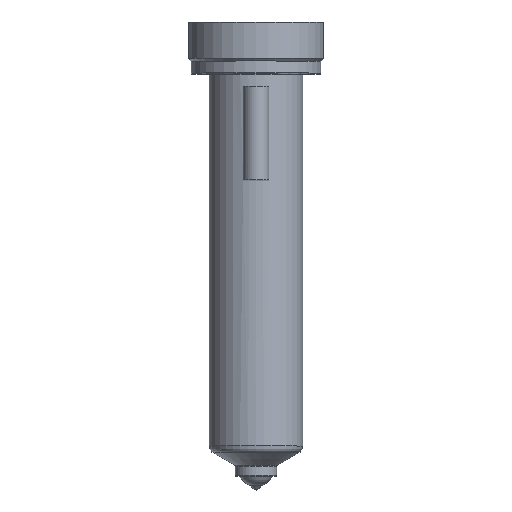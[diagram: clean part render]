
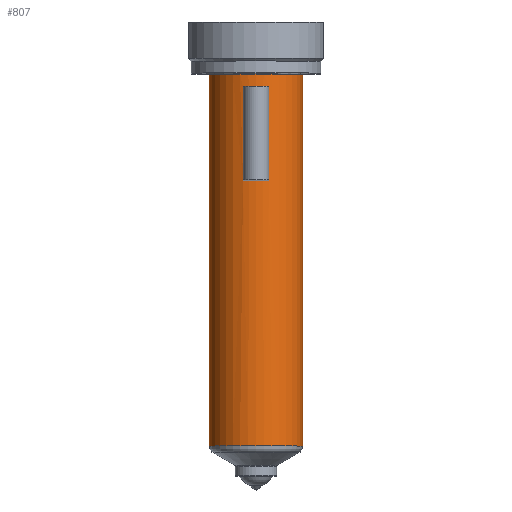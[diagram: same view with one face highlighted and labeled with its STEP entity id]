
A CAD part, top view. The second image highlights one B-rep face of the part: STEP entity #807.
In plain terms, the highlighted cylindrical face has radius 9 mm (diameter 18 mm), a partial arc.
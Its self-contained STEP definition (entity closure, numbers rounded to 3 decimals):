
#193=DIRECTION('',(0.,-1.,0.));
#194=VECTOR('',#193,71.544);
#195=CARTESIAN_POINT('',(9.,0.,0.));
#196=LINE('',#195,#194);
#197=CARTESIAN_POINT('',(0.,-71.544,0.));
#198=DIRECTION('',(0.,1.,0.));
#199=DIRECTION('',(-1.,0.,0.));
#200=AXIS2_PLACEMENT_3D('',#197,#198,#199);
#202=DIRECTION('',(0.,1.,0.));
#203=VECTOR('',#202,71.544);
#204=CARTESIAN_POINT('',(-9.,-71.544,0.));
#205=LINE('',#204,#203);
#206=CARTESIAN_POINT('',(0.,0.,0.));
#207=DIRECTION('',(0.,1.,0.));
#208=DIRECTION('',(-1.,0.,0.));
#209=AXIS2_PLACEMENT_3D('',#206,#207,#208);
#211=DIRECTION('',(0.,-1.,0.));
#212=VECTOR('',#211,18.);
#213=CARTESIAN_POINT('',(-2.5,-2.5,8.646));
#214=LINE('',#213,#212);
#215=DIRECTION('',(0.,1.,0.));
#216=VECTOR('',#215,18.);
#217=CARTESIAN_POINT('',(2.5,-20.5,8.646));
#218=LINE('',#217,#216);
#385=CARTESIAN_POINT('',(0.,-2.5,0.));
#386=DIRECTION('',(0.,-1.,0.));
#387=DIRECTION('',(0.278,0.,0.961));
#388=AXIS2_PLACEMENT_3D('',#385,#386,#387);
#403=CARTESIAN_POINT('',(0.,-20.5,0.));
#404=DIRECTION('',(0.,1.,0.));
#405=DIRECTION('',(-0.278,0.,0.961));
#406=AXIS2_PLACEMENT_3D('',#403,#404,#405);
#482=CARTESIAN_POINT('',(-9.,0.,0.));
#483=CARTESIAN_POINT('',(9.,0.,0.));
#484=VERTEX_POINT('',#482);
#485=VERTEX_POINT('',#483);
#494=CARTESIAN_POINT('',(-2.5,-2.5,8.646));
#495=VERTEX_POINT('',#494);
#496=CARTESIAN_POINT('',(2.5,-2.5,8.646));
#497=VERTEX_POINT('',#496);
#534=CARTESIAN_POINT('',(9.,-71.544,0.));
#535=VERTEX_POINT('',#534);
#544=CARTESIAN_POINT('',(-9.,-71.544,0.));
#545=VERTEX_POINT('',#544);
#566=CARTESIAN_POINT('',(-2.5,-20.5,8.646));
#567=CARTESIAN_POINT('',(2.5,-20.5,8.646));
#568=VERTEX_POINT('',#566);
#569=VERTEX_POINT('',#567);
#785=CARTESIAN_POINT('',(0.,11.15,0.));
#786=DIRECTION('',(0.,-1.,0.));
#787=DIRECTION('',(-1.,0.,0.));
#788=AXIS2_PLACEMENT_3D('',#785,#786,#787);
#789=CYLINDRICAL_SURFACE('',#788,9.);
#790=ORIENTED_EDGE('',*,*,#779,.T.);
#792=ORIENTED_EDGE('',*,*,#791,.F.);
#793=ORIENTED_EDGE('',*,*,#775,.T.);
#794=ORIENTED_EDGE('',*,*,#765,.T.);
#795=EDGE_LOOP('',(#790,#792,#793,#794));
#796=FACE_OUTER_BOUND('',#795,.F.);
#798=ORIENTED_EDGE('',*,*,#797,.T.);
#800=ORIENTED_EDGE('',*,*,#799,.T.);
#802=ORIENTED_EDGE('',*,*,#801,.T.);
#804=ORIENTED_EDGE('',*,*,#803,.T.);
#805=EDGE_LOOP('',(#798,#800,#802,#804));
#806=FACE_BOUND('',#805,.F.);
#807=ADVANCED_FACE('',(#796,#806),#789,.T.);
#201=CIRCLE('',#200,9.);
#210=CIRCLE('',#209,9.);
#389=CIRCLE('',#388,9.);
#407=CIRCLE('',#406,9.);
#765=EDGE_CURVE('',#484,#485,#210,.T.);
#775=EDGE_CURVE('',#545,#484,#205,.T.);
#779=EDGE_CURVE('',#485,#535,#196,.T.);
#791=EDGE_CURVE('',#545,#535,#201,.T.);
#797=EDGE_CURVE('',#495,#568,#214,.T.);
#799=EDGE_CURVE('',#568,#569,#407,.T.);
#801=EDGE_CURVE('',#569,#497,#218,.T.);
#803=EDGE_CURVE('',#497,#495,#389,.T.);
